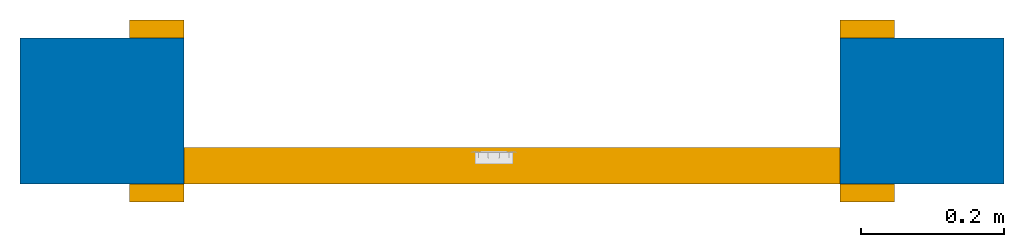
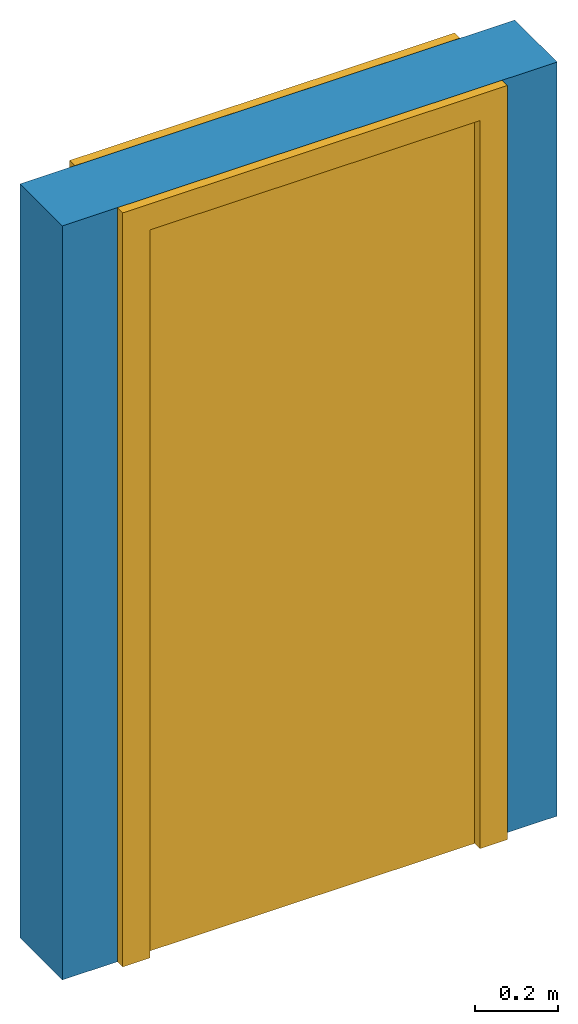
# One storey, incomplete: 1 door, 1 wall, 1 opening.
"""IFC2X3 building model written with IfcOpenShell, lengths in feet."""

import ifcopenshell
import ifcopenshell.guid

model = None  # the IFC model being written
_history = None  # IfcOwnerHistory: only IFC2X3 demands one
_inside = {}  # id of a spatial element -> (the spatial element, [elements in it])
_under = {}  # id of a project, library or spatial element -> (it, [spatial elements below it])
_declared = {}  # id of a project -> (the project, [libraries it declares])
_typed = {}  # id of a type object -> (the type object, [elements of that type])
_made_of = {}  # id of a material, layer set ... -> (it, [elements and type objects made of it])


def new_model(schema):
    """Start an empty IFC model of exactly this schema.

    Asked for "IFC4X3", IfcOpenShell would pick the latest addendum, in which some entities
    have other attributes; the version numbers below select the first issue.
    IFC2X3 requires an IfcOwnerHistory on every rooted entity: one is made here for all.
    """
    global model, _history
    if schema == "IFC4X3":
        model = ifcopenshell.file(schema_version=(4, 3, 0, 0))
    else:
        model = ifcopenshell.file(schema=schema)
    _inside.clear()
    _under.clear()
    _declared.clear()
    _typed.clear()
    _made_of.clear()
    _history = None
    if model.schema == "IFC2X3":
        org = make("IfcOrganization", Name="unknown")
        user = make(
            "IfcPersonAndOrganization",
            ThePerson=make("IfcPerson", FamilyName="unknown"),
            TheOrganization=org,
        )
        app = make(
            "IfcApplication",
            ApplicationDeveloper=org,
            Version="unknown",
            ApplicationFullName="unknown",
            ApplicationIdentifier="unknown",
        )
        _history = make(
            "IfcOwnerHistory",
            OwningUser=user,
            OwningApplication=app,
            ChangeAction="ADDED",
            CreationDate=0,
        )
    return model


def make(cls, **values):
    """One entity of the class cls with the attributes given. An attribute that is None is left unset."""
    return model.create_entity(
        cls, **{name: value for name, value in values.items() if value is not None}
    )


def entity(cls, *values):
    """Any entity or typed value of the class cls, its attributes in the order of the schema. None: left unset."""
    e = model.create_entity(cls)
    for i, value in enumerate(values):
        if value is not None:
            e[i] = value
    return e


def rooted(cls, **values):
    """An entity with a GlobalId (a new one), such as an element, a storey or a relation."""
    return make(cls, GlobalId=ifcopenshell.guid.new(), OwnerHistory=_history, **values)


def si_unit(unit_type, name, prefix=None):
    """IfcSIUnit, for example si_unit("LENGTHUNIT", "METRE", prefix="MILLI")."""
    return make("IfcSIUnit", UnitType=unit_type, Prefix=prefix, Name=name)


def converted_unit(unit_type, name, factor, base, dimensions=None, offset=None):
    """IfcConversionBasedUnit, such as the inch: factor (a typed value) times the base unit."""
    return make(
        "IfcConversionBasedUnit"
        if offset is None
        else "IfcConversionBasedUnitWithOffset",
        ConversionOffset=offset,
        Dimensions=None
        if dimensions is None
        else entity("IfcDimensionalExponents", *dimensions),
        UnitType=unit_type,
        Name=name,
        ConversionFactor=make(
            "IfcMeasureWithUnit", ValueComponent=factor, UnitComponent=base
        ),
    )


def derived_unit(unit_type, elements):
    """IfcDerivedUnit: a product of units, each with its exponent."""
    return make(
        "IfcDerivedUnit",
        Elements=[
            make("IfcDerivedUnitElement", Unit=unit, Exponent=power)
            for unit, power in elements
        ],
        UnitType=unit_type,
    )


def assignment(units):
    """IfcUnitAssignment: the units of a project."""
    return None if units is None else make("IfcUnitAssignment", Units=units)


def point(xyz):
    """IfcCartesianPoint."""
    return None if xyz is None else make("IfcCartesianPoint", Coordinates=xyz)


def direction(xyz):
    """IfcDirection."""
    return None if xyz is None else make("IfcDirection", DirectionRatios=xyz)


def frame(location, z_axis=None, x_axis=None):
    """IfcAxis2Placement3D, a coordinate frame: its origin and axes. An axis left out is left unset."""
    return make(
        "IfcAxis2Placement3D",
        Location=point(location),
        Axis=direction(z_axis),
        RefDirection=direction(x_axis),
    )


def frame_2d(location, x_axis=None):
    """IfcAxis2Placement2D, a coordinate frame in the plane: its origin and x axis."""
    return make(
        "IfcAxis2Placement2D", Location=point(location), RefDirection=direction(x_axis)
    )


def origin():
    """The frame at (0, 0, 0) with its axes left unset."""
    return frame((0.0, 0.0, 0.0))


def place(relative_to, where):
    """IfcLocalPlacement: puts the frame where relative to a parent placement (None: the world)."""
    return make(
        "IfcLocalPlacement", PlacementRelTo=relative_to, RelativePlacement=where
    )


def context(
    kind, dimensions, precision=None, world=None, true_north=None, identifier=None
):
    """IfcGeometricRepresentationContext, for example the 3D "Model" context."""
    return make(
        "IfcGeometricRepresentationContext",
        ContextIdentifier=identifier,
        ContextType=kind,
        CoordinateSpaceDimension=dimensions,
        Precision=precision,
        WorldCoordinateSystem=world,
        TrueNorth=true_north,
    )


def subcontext(parent, identifier, kind, view, scale=None):
    """IfcGeometricRepresentationSubContext, for example "Body" below "Model"."""
    return make(
        "IfcGeometricRepresentationSubContext",
        ContextIdentifier=identifier,
        ContextType=kind,
        ParentContext=parent,
        TargetScale=scale,
        TargetView=view,
    )


def project(units=None, contexts=None):
    """IfcProject with its units and contexts."""
    return rooted(
        "IfcProject",
        Name="project",
        RepresentationContexts=contexts,
        UnitsInContext=assignment(units),
    )


def spatial(cls, under=None, at=None, **own):
    """A site, building, storey or space (cls), placed at a placement, below another one or the project."""
    s = rooted(cls, ObjectPlacement=at, **own)
    if under is not None:
        _under.setdefault(under.id(), (under, []))[1].append(s)
    return s


def polyline(points):
    """IfcPolyline through the points."""
    return make("IfcPolyline", Points=[point(p) for p in points])


def profile(cls, at=None, kind="AREA", **sizes):
    """A parametric profile (cls). Its sizes go by their IFC names, for example OverallWidth=200.0."""
    return make(cls, ProfileType=kind, Position=at, **sizes)


def rectangle(**sizes):
    """IfcRectangleProfileDef."""
    return profile("IfcRectangleProfileDef", **sizes)


def outline(outer, holes=None, kind="AREA"):
    """IfcArbitraryClosedProfileDef: a profile drawn as a closed curve; with holes, ...WithVoids."""
    if holes is None:
        return make("IfcArbitraryClosedProfileDef", ProfileType=kind, OuterCurve=outer)
    return make(
        "IfcArbitraryProfileDefWithVoids",
        ProfileType=kind,
        OuterCurve=outer,
        InnerCurves=holes,
    )


def extrude(swept, where, along, depth):
    """IfcExtrudedAreaSolid: the profile swept, set in the frame where, extruded along a direction by depth."""
    return make(
        "IfcExtrudedAreaSolid",
        SweptArea=swept,
        Position=where,
        ExtrudedDirection=direction(along),
        Depth=depth,
    )


def shape(context_of_items, identifier, shape_type, items):
    """IfcShapeRepresentation: the items that make up one representation, for example the "Body"."""
    return make(
        "IfcShapeRepresentation",
        ContextOfItems=context_of_items,
        RepresentationIdentifier=identifier,
        RepresentationType=shape_type,
        Items=items,
    )


def source(mapping_origin, context_of_items, identifier, shape_type, items):
    """IfcRepresentationMap: a shape defined once, which mapped items show again and again."""
    return make(
        "IfcRepresentationMap",
        MappingOrigin=mapping_origin,
        MappedRepresentation=shape(context_of_items, identifier, shape_type, items),
    )


def transform(
    local_origin,
    x_axis=None,
    y_axis=None,
    z_axis=None,
    scale=None,
    scale2=None,
    scale3=None,
    uniform=True,
):
    """IfcCartesianTransformationOperator3D, or its non-uniform kind. x_axis, y_axis, z_axis: its Axis1, 2, 3."""
    if uniform:
        return make(
            "IfcCartesianTransformationOperator3D",
            Axis1=direction(x_axis),
            Axis2=direction(y_axis),
            LocalOrigin=point(local_origin),
            Scale=scale,
            Axis3=direction(z_axis),
        )
    return make(
        "IfcCartesianTransformationOperator3DnonUniform",
        Axis1=direction(x_axis),
        Axis2=direction(y_axis),
        LocalOrigin=point(local_origin),
        Scale=scale,
        Axis3=direction(z_axis),
        Scale2=scale2,
        Scale3=scale3,
    )


def mapped(mapping_source, mapping_target):
    """IfcMappedItem: shows the shape of a source again, moved by a transform."""
    return make(
        "IfcMappedItem", MappingSource=mapping_source, MappingTarget=mapping_target
    )


def material(Name=None, Category=None):
    """IfcMaterial."""
    return make("IfcMaterial", Name=Name, Category=Category)


def material_list(materials):
    """IfcMaterialList."""
    return make("IfcMaterialList", Materials=materials)


def layer(
    of_material, thickness, ventilated=None, Name=None, Category=None, Priority=None
):
    """IfcMaterialLayer: one layer of a wall or slab, of a material (None: an air gap)."""
    return make(
        "IfcMaterialLayer",
        Material=of_material,
        LayerThickness=thickness,
        IsVentilated=ventilated,
        Name=Name,
        Category=Category,
        Priority=Priority,
    )


def layer_set(layers, Name=None):
    """IfcMaterialLayerSet."""
    return make("IfcMaterialLayerSet", MaterialLayers=layers, LayerSetName=Name)


def layer_usage(for_layer_set, set_direction, sense, offset, extent=None):
    """IfcMaterialLayerSetUsage: how a layer set lies in its element."""
    return make(
        "IfcMaterialLayerSetUsage",
        ForLayerSet=for_layer_set,
        LayerSetDirection=set_direction,
        DirectionSense=sense,
        OffsetFromReferenceLine=offset,
        ReferenceExtent=extent,
    )


def made_of(thing, what):
    """Note that an element or type object is made of a material, layer set ...; save() writes the relation."""
    if what is not None:
        _made_of.setdefault(what.id(), (what, []))[1].append(thing)
    return thing


def type_object(cls, material=None, **own):
    """A type object (cls), such as IfcWallType, which elements share."""
    return made_of(rooted(cls, **own), material)


def type_shapes(of_type, sources):
    """Give a type object the sources (RepresentationMaps) that its elements show as mapped items."""
    of_type.RepresentationMaps = sources


def element(
    cls,
    number,
    at=None,
    inside=None,
    cuts=None,
    type_object=None,
    material=None,
    context=None,
    identifier="Body",
    shape_type=None,
    held_by="IfcProductDefinitionShape",
    body=None,
    shapes=None,
    **own,
):
    """One element of the class cls, such as IfcWall. Its Tag is "e" and its number.

    at: its placement. inside: the storey or other place that contains it. cuts: it is an
    opening in that element (IfcRelVoidsElement). A single representation is given by context,
    identifier, shape_type and body (its items); several are given by shapes. held_by: the class
    of the entity that holds the representations. save() writes the other relations.
    """
    e = rooted(cls, Tag="e%d" % number, ObjectPlacement=at, **own)
    if body is not None:
        shapes = [shape(context, identifier, shape_type, body)]
    if shapes is not None:
        e.Representation = make(held_by, Representations=shapes)
    if inside is not None:
        _inside.setdefault(inside.id(), (inside, []))[1].append(e)
    if cuts is not None:
        rooted(
            "IfcRelVoidsElement", RelatingBuildingElement=cuts, RelatedOpeningElement=e
        )
    if type_object is not None:
        _typed.setdefault(type_object.id(), (type_object, []))[1].append(e)
    return made_of(e, material)


def fill(opening, filler):
    """IfcRelFillsElement: the door or window that sits in an opening."""
    return rooted(
        "IfcRelFillsElement",
        RelatingOpeningElement=opening,
        RelatedBuildingElement=filler,
    )


def aggregate(whole, parts):
    """IfcRelAggregates: a whole, such as a stair, and the parts it consists of."""
    return rooted("IfcRelAggregates", RelatingObject=whole, RelatedObjects=parts)


def save(model, path):
    """Write the relations noted so far, then the file.

    IfcRelAggregates (storeys below a building ...), IfcRelContainedInSpatialStructure (elements
    in a storey), IfcRelDefinesByType, IfcRelAssociatesMaterial and IfcRelDeclares: one each for
    every whole, place, type object, material and project.
    """
    for whole, parts in _under.values():
        aggregate(whole, parts)
    for where, things in _inside.values():
        rooted(
            "IfcRelContainedInSpatialStructure",
            RelatedElements=things,
            RelatingStructure=where,
        )
    for kind, things in _typed.values():
        rooted("IfcRelDefinesByType", RelatedObjects=things, RelatingType=kind)
    for what, things in _made_of.values():
        rooted("IfcRelAssociatesMaterial", RelatedObjects=things, RelatingMaterial=what)
    for by, libraries in _declared.values():
        rooted("IfcRelDeclares", RelatingContext=by, RelatedDefinitions=libraries)
    model.write(path)


model = new_model("IFC2X3")

# Units and contexts
model_context = context("Model", 3, precision=0.0001, world=origin(), true_north=direction((6.12303176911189e-17, 1.0)))
body_context = subcontext(model_context, "Body", "Model", "MODEL_VIEW")
ifc_project = project(units=[converted_unit("LENGTHUNIT", "FOOT", entity("IfcRatioMeasure", 0.3048), si_unit("LENGTHUNIT", "METRE"), dimensions=[1, 0, 0, 0, 0, 0, 0]), converted_unit("AREAUNIT", "SQUARE FOOT", entity("IfcRatioMeasure", 0.09290304), si_unit("AREAUNIT", "SQUARE_METRE"), dimensions=[2, 0, 0, 0, 0, 0, 0]), converted_unit("VOLUMEUNIT", "CUBIC FOOT", entity("IfcRatioMeasure", 0.028316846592), si_unit("VOLUMEUNIT", "CUBIC_METRE"), dimensions=[3, 0, 0, 0, 0, 0, 0]), converted_unit("PLANEANGLEUNIT", "DEGREE", entity("IfcRatioMeasure", 0.0174532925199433), si_unit("PLANEANGLEUNIT", "RADIAN"), dimensions=[0, 0, 0, 0, 0, 0, 0]), si_unit("MASSUNIT", "GRAM", prefix="KILO"), derived_unit("MASSDENSITYUNIT", [(si_unit("MASSUNIT", "GRAM", prefix="KILO"), 1), (si_unit("LENGTHUNIT", "METRE"), -3)]), si_unit("TIMEUNIT", "SECOND"), si_unit("FREQUENCYUNIT", "HERTZ"), si_unit("THERMODYNAMICTEMPERATUREUNIT", "DEGREE_CELSIUS"), derived_unit("THERMALTRANSMITTANCEUNIT", [(si_unit("MASSUNIT", "GRAM", prefix="KILO"), 1), (si_unit("THERMODYNAMICTEMPERATUREUNIT", "KELVIN"), -1), (si_unit("TIMEUNIT", "SECOND"), -3)]), derived_unit("VOLUMETRICFLOWRATEUNIT", [(si_unit("LENGTHUNIT", "METRE"), 3), (si_unit("TIMEUNIT", "SECOND"), -1)]), si_unit("ELECTRICCURRENTUNIT", "AMPERE"), si_unit("ELECTRICVOLTAGEUNIT", "VOLT"), si_unit("POWERUNIT", "WATT"), si_unit("FORCEUNIT", "NEWTON"), si_unit("ILLUMINANCEUNIT", "LUX"), si_unit("LUMINOUSFLUXUNIT", "LUMEN"), si_unit("LUMINOUSINTENSITYUNIT", "CANDELA"), derived_unit("USERDEFINED", [(si_unit("MASSUNIT", "GRAM", prefix="KILO"), -1), (si_unit("LENGTHUNIT", "METRE"), -2), (si_unit("TIMEUNIT", "SECOND"), 3), (si_unit("LUMINOUSFLUXUNIT", "LUMEN"), 1)]), derived_unit("LINEARVELOCITYUNIT", [(si_unit("LENGTHUNIT", "METRE"), 1), (si_unit("TIMEUNIT", "SECOND"), -1)]), si_unit("PRESSUREUNIT", "PASCAL"), derived_unit("USERDEFINED", [(si_unit("LENGTHUNIT", "METRE"), -2), (si_unit("MASSUNIT", "GRAM", prefix="KILO"), 1), (si_unit("TIMEUNIT", "SECOND"), -2)])], contexts=[model_context])

# Site, building, storey
site_placement = place(None, origin())
site = spatial("IfcSite", under=ifc_project, at=site_placement, Name="Default", CompositionType="ELEMENT")
building_placement = place(site_placement, origin())
building = spatial("IfcBuilding", under=site, at=building_placement, CompositionType="ELEMENT")
storey_placement = place(building_placement, origin())
storey = spatial("IfcBuildingStorey", under=building, at=storey_placement, Name="Level 1", CompositionType="ELEMENT", Elevation=0.0)

# Wall, opening, door
ifc_material_1 = material(Name="Default Wall")
ifc_layer = layer(ifc_material_1, 0.666666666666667)
ifc_layer_set = layer_set([ifc_layer], Name="Basic Wall:Generic - 8\"")
ifc_layer_usage = layer_usage(ifc_layer_set, "AXIS2", "NEGATIVE", 0.333333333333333)
wall_type = type_object("IfcWallType", Name="Basic Wall:Generic - 8\"", PredefinedType="STANDARD", material=ifc_layer_set)
wall_placement = place(storey_placement, frame((-6.80307554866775, 6.85161731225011, 0.0)))
wall = element("IfcWallStandardCase", 1, at=wall_placement, inside=storey, type_object=wall_type, material=ifc_layer_usage, Name="Basic Wall:Generic - 8\"", ObjectType="Basic Wall:Generic - 8\"", context=body_context, shape_type="SweptSolid", body=[
    extrude(rectangle(XDim=4.5, YDim=0.666666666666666, at=frame_2d((2.25, -2.4980018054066e-16), x_axis=(-1.0, 0.0))), origin(), (0.0, 0.0, 1.0), 7.25),
])
opening_placement = place(wall_placement, frame((3.75, 0.333333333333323, 0.0)))
opening = element("IfcOpeningElement", 2, at=opening_placement, cuts=wall, Name="Single-Flush:36\" x 84\":1", ObjectType="Opening", context=body_context, shape_type="SweptSolid", body=[
    extrude(rectangle(XDim=3.0, YDim=7.0, at=frame_2d((3.5, 1.5), x_axis=(0.0, 1.0))), frame((0.0, 0.0, 0.0), z_axis=(0.0, -1.0, 0.0), x_axis=(0.0, 0.0, 1.0)), (0.0, 0.0, 1.0), 0.666666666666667),
])
ifc_material_2 = material(Name="Door - Frame")
ifc_material_3 = material(Name="Door - Panel")
ifc_material_list_1 = material_list([ifc_material_2, ifc_material_3])
ifc_material_list_2 = material_list([ifc_material_2, ifc_material_3])
door_style = type_object("IfcDoorStyle", Name="36\" x 84\"", ConstructionType="NOTDEFINED", OperationType="SINGLE_SWING_RIGHT", ParameterTakesPrecedence=False, Sizeable=False, material=ifc_material_list_2)
shared_shape = source(origin(), body_context, "Body", "SweptSolid", [
    extrude(outline(polyline([(-1.75, -3.6875), (1.75, -3.6875), (1.75, 3.5625), (1.5, 3.5625), (1.5, -3.43750000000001), (-1.5, -3.43750000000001), (-1.5, 3.5625), (-1.75, 3.5625), (-1.75, -3.6875)])), frame((1.5, 0.666666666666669, 3.5625), z_axis=(0.0, 1.0, 0.0), x_axis=(1.0, 0.0, 0.0)), (0.0, 0.0, 1.0), 0.0833333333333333),
    extrude(outline(polyline([(-3.6875, -1.74999999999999), (3.5625, -1.74999999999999), (3.5625, -1.50000000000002), (-3.4375, -1.50000000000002), (-3.4375, 1.50000000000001), (3.5625, 1.50000000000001), (3.5625, 1.75000000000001), (-3.6875, 1.75000000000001), (-3.6875, -1.74999999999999)])), frame((1.50000000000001, -0.0833333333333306, 3.5625), z_axis=(0.0, 1.0, 0.0), x_axis=(0.0, 0.0, -1.0)), (0.0, 0.0, 1.0), 0.0833333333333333),
    extrude(rectangle(XDim=0.166666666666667, YDim=3.0, at=frame_2d((-1.38777878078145e-17, 0.0), x_axis=(1.0, 0.0))), frame((1.5, 0.583333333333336, 0.0), z_axis=(0.0, 0.0, 1.0), x_axis=(0.0, 1.0, 0.0)), (0.0, 0.0, 1.0), 7.0),
])
type_shapes(door_style, [shared_shape])
door_placement = place(opening_placement, frame((0.0, 0.0, 0.0), z_axis=(0.0, 0.0, 1.0), x_axis=(-1.0, 0.0, 0.0)))
door = element("IfcDoor", 3, at=door_placement, inside=storey, type_object=door_style, material=ifc_material_list_1, Name="Single-Flush:36\" x 84\"", ObjectType="Single-Flush:36\" x 84\"", OverallHeight=7.0, OverallWidth=3.0, context=body_context, shape_type="MappedRepresentation", body=[
    mapped(shared_shape, transform((0.0, 0.0, 0.0), scale=1.0)),
])
fill(opening, door)

save(model, "model.ifc")
